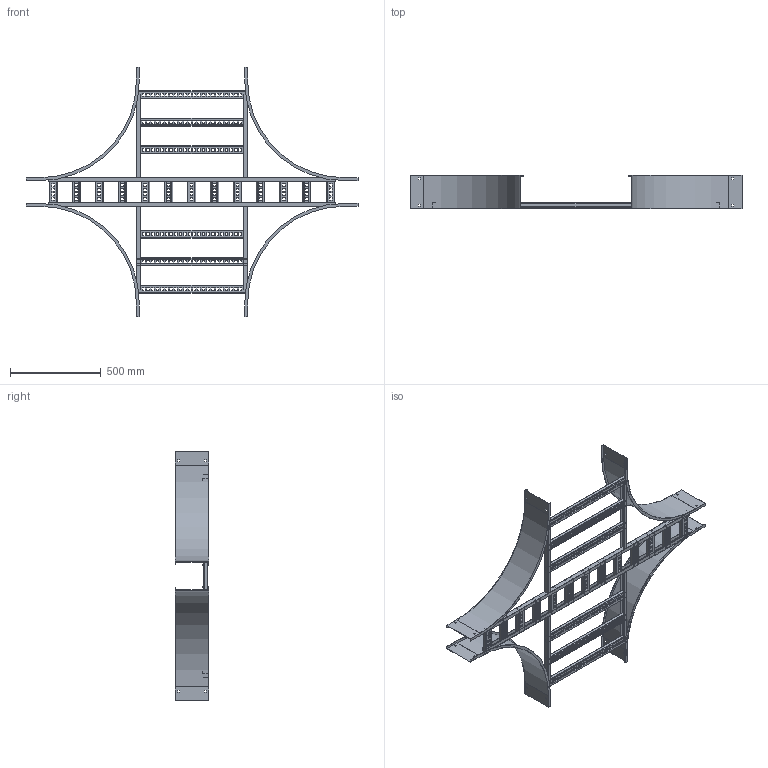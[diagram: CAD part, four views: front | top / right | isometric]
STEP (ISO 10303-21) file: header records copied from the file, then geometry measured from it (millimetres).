
FILE_DESCRIPTION((''),'2;1');
FILE_NAME('AUF70624VEX24_ASM','2010-02-03T',('erouzier'),(''),'PRO/ENGINEER BY PARAMETRIC TECHNOLOGY CORPORATION, 2008510','PRO/ENGINEER BY PARAMETRIC TECHNOLOGY CORPORATION, 2008510','');
FILE_SCHEMA(('CONFIG_CONTROL_DESIGN'));
Length unit declared in the file: inch
Products named in the file (22): CDS001322-7-90-21-I; CDS002159L6-P_AF13; CDS002159L6-P_AF14; CDS002159L6-P_AF15; CDS002159L6-P_AF16; CDS002159L6-P_AF22; CDS002159L6-P_AF24; CDS002159L6-P_AF17; CDS002159L6-P_AF18; CDS002159L6-P_AF19; CDS002159L6-P_AF21; CDS002159L6-P_AF23; CDS002159L6-P_AF25; CDS002159L6-P_AF20; CDS000495_GEN_AF18; CDS000495_GEN_AF19; CDS000495_GEN_AF22; CDS000495_GEN_AF23; CDS000495_GEN_AF20; CDS000495_GEN_AF21; CDS002159L24-P; AUF70624VEX24_ASM
Assembly tree (29 placements, depth 2):
  AUF70624VEX24_ASM
    CDS001322-7-90-21-I  x4
    CDS002159L6-P_AF13
    CDS002159L6-P_AF14
    CDS002159L6-P_AF15
    CDS002159L6-P_AF16
    CDS002159L6-P_AF22
    CDS002159L6-P_AF24
    CDS002159L6-P_AF17
    CDS002159L6-P_AF18
    CDS002159L6-P_AF19
    CDS002159L6-P_AF21
    CDS002159L6-P_AF23
    CDS002159L6-P_AF25
    CDS002159L6-P_AF20
    CDS000495_GEN_AF18
    CDS000495_GEN_AF19
    CDS000495_GEN_AF22
    CDS000495_GEN_AF23
    CDS000495_GEN_AF20
    CDS000495_GEN_AF21
    CDS002159L24-P  x6
Bounding box: 1834.39 x 183.9 x 1377.19 mm (x, y, z)
Volume: 3896968.9 mm3; surface area: 3646916.8 mm2
Topology: 29 solids, 29 shells, 2238 faces, 6540 edges, 4360 vertices
Faces by surface type: plane 1277, cylinder 961
Entity records: 37341 total; most frequent: CARTESIAN_POINT 6477, DIRECTION 6414, ORIENTED_EDGE 6384, EDGE_CURVE 3192, VECTOR 2284, LINE 2284, VERTEX_POINT 2128, AXIS2_PLACEMENT_3D 2065
